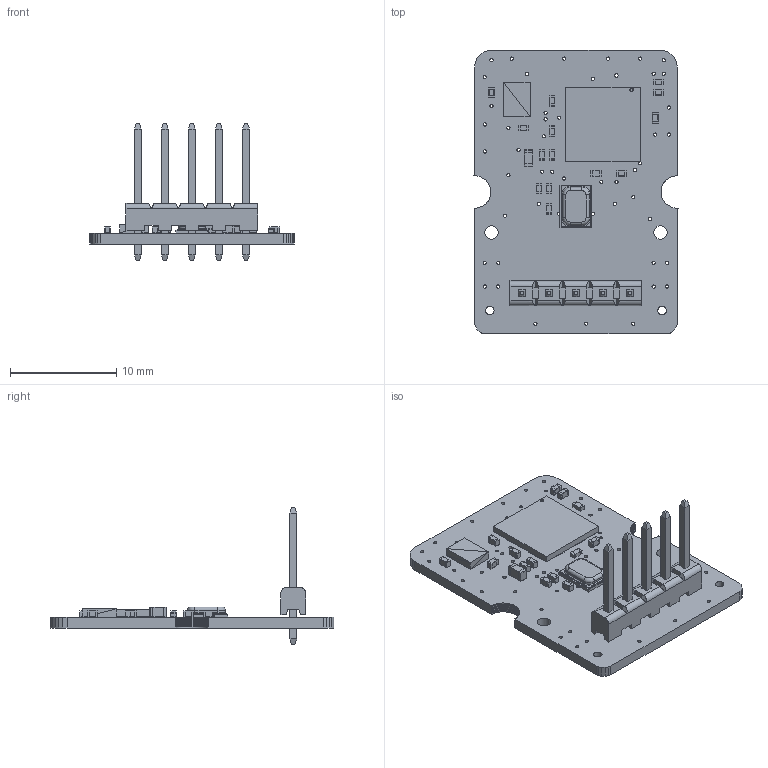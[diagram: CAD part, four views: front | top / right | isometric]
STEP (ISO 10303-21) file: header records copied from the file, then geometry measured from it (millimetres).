
FILE_DESCRIPTION(('for SolidWorks'),'2;1');
FILE_NAME('C:\Users\Pratik\Desktop\PCBArtists\PROJECTS\pcbartists_190AB_decibelmeter_pcbartists_jan22\hardware\rev3\production_rev3\3dmodel_dbmeter_rev3\HDR dbmeter rev3.step', '2023-10-30T19:10:53',('Pratik'),(''), 'Open CASCADE STEP processor 6.6','DipTrace','Unknown');
FILE_SCHEMA(('AUTOMOTIVE_DESIGN { 1 0 10303 214 1 1 1 1 }'));
Length unit declared in the file: millimetre
Products named in the file (9): PCB_HDR_dbmeter_rev3; Board_HDR_dbmeter_rev3; CAP_0402_M; hdr-1x5t_2.54_12x2; IND_0603_M; RES_0402_M; STM32G431CBU6; ICS-43432--3DModel-STEP-269445; Open CASCADE STEP translator 6.6 1.20
Assembly tree (20 placements, depth 2):
  PCB_HDR_dbmeter_rev3
    Board_HDR_dbmeter_rev3
    CAP_0402_M  x12
    hdr-1x5t_2.54_12x2
    IND_0603_M
    RES_0402_M  x2
    STM32G431CBU6
    ICS-43432--3DModel-STEP-269445
    Open CASCADE STEP translator 6.6 1.20
Bounding box: 19.22 x 26.67 x 12.84 mm (x, y, z)
Volume: 619.4 mm3; surface area: 1754.2 mm2
Topology: 99 solids, 111 shells, 1471 faces, 3436 edges, 2073 vertices
Faces by surface type: plane 884, cylinder 458, sphere 120, torus 9
Full cylindrical faces by diameter (mm): 0.25 x2, 0.305 x59, 0.35 x1, 0.5 x1, 0.8 x2, 0.9 x5, 1.05 x1, 1.27 x2, 1.65 x1
Entity records: 28202 total; most frequent: CARTESIAN_POINT 4505, DIRECTION 4490, ORIENTED_EDGE 4292, EDGE_CURVE 2164, LINE 1718, VECTOR 1718, VERTEX_POINT 1401, AXIS2_PLACEMENT_3D 1386
